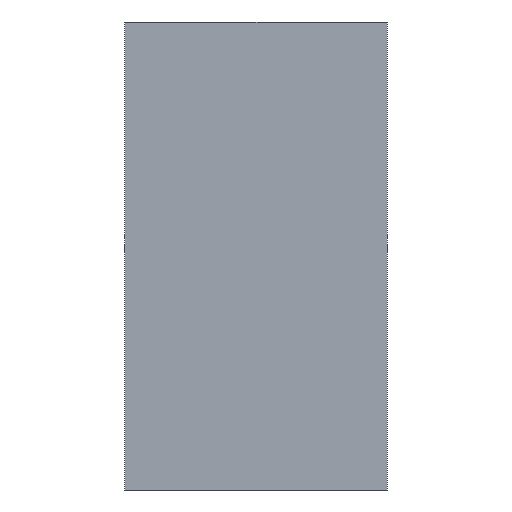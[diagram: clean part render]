
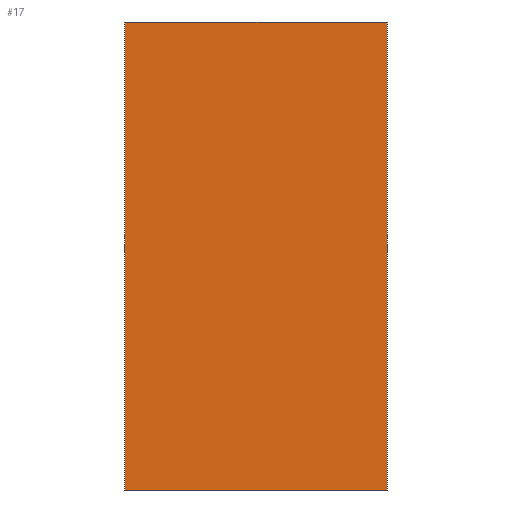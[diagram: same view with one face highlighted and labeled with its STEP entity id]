
A CAD part, left-side view. The second image highlights one B-rep face of the part: STEP entity #17.
In plain terms, the highlighted planar face has unit normal (-1, 0, 0).
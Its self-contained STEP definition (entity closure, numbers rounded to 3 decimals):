
#17 = ADVANCED_FACE('',(#18),#32,.F.);
#18 = FACE_BOUND('',#19,.F.);
#19 = EDGE_LOOP('',(#20,#55,#83,#111));
#20 = ORIENTED_EDGE('',*,*,#21,.F.);
#21 = EDGE_CURVE('',#22,#24,#26,.T.);
#22 = VERTEX_POINT('',#23);
#23 = CARTESIAN_POINT('',(10.5,-45.775,1.3));
#24 = VERTEX_POINT('',#25);
#25 = CARTESIAN_POINT('',(10.5,-45.775,6.3));
#26 = SURFACE_CURVE('',#27,(#31,#43),.PCURVE_S1.);
#27 = LINE('',#28,#29);
#28 = CARTESIAN_POINT('',(10.5,-45.775,1.3));
#29 = VECTOR('',#30,1.);
#30 = DIRECTION('',(0.,0.,1.));
#31 = PCURVE('',#32,#37);
#32 = PLANE('',#33);
#33 = AXIS2_PLACEMENT_3D('',#34,#35,#36);
#34 = CARTESIAN_POINT('',(10.5,-45.775,1.3));
#35 = DIRECTION('',(1.,0.,0.));
#36 = DIRECTION('',(0.,0.,1.));
#37 = DEFINITIONAL_REPRESENTATION('',(#38),#42);
#38 = LINE('',#39,#40);
#39 = CARTESIAN_POINT('',(0.,0.));
#40 = VECTOR('',#41,1.);
#41 = DIRECTION('',(1.,0.));
#42 = ( GEOMETRIC_REPRESENTATION_CONTEXT(2) 
PARAMETRIC_REPRESENTATION_CONTEXT() REPRESENTATION_CONTEXT('2D SPACE',''
  ) );
#43 = PCURVE('',#44,#49);
#44 = PLANE('',#45);
#45 = AXIS2_PLACEMENT_3D('',#46,#47,#48);
#46 = CARTESIAN_POINT('',(10.5,-45.775,1.3));
#47 = DIRECTION('',(0.,1.,0.));
#48 = DIRECTION('',(0.,0.,1.));
#49 = DEFINITIONAL_REPRESENTATION('',(#50),#54);
#50 = LINE('',#51,#52);
#51 = CARTESIAN_POINT('',(0.,0.));
#52 = VECTOR('',#53,1.);
#53 = DIRECTION('',(1.,0.));
#54 = ( GEOMETRIC_REPRESENTATION_CONTEXT(2) 
PARAMETRIC_REPRESENTATION_CONTEXT() REPRESENTATION_CONTEXT('2D SPACE',''
  ) );
#55 = ORIENTED_EDGE('',*,*,#56,.T.);
#56 = EDGE_CURVE('',#22,#57,#59,.T.);
#57 = VERTEX_POINT('',#58);
#58 = CARTESIAN_POINT('',(10.5,-42.975,1.3));
#59 = SURFACE_CURVE('',#60,(#64,#71),.PCURVE_S1.);
#60 = LINE('',#61,#62);
#61 = CARTESIAN_POINT('',(10.5,-45.775,1.3));
#62 = VECTOR('',#63,1.);
#63 = DIRECTION('',(0.,1.,0.));
#64 = PCURVE('',#32,#65);
#65 = DEFINITIONAL_REPRESENTATION('',(#66),#70);
#66 = LINE('',#67,#68);
#67 = CARTESIAN_POINT('',(0.,0.));
#68 = VECTOR('',#69,1.);
#69 = DIRECTION('',(0.,-1.));
#70 = ( GEOMETRIC_REPRESENTATION_CONTEXT(2) 
PARAMETRIC_REPRESENTATION_CONTEXT() REPRESENTATION_CONTEXT('2D SPACE',''
  ) );
#71 = PCURVE('',#72,#77);
#72 = PLANE('',#73);
#73 = AXIS2_PLACEMENT_3D('',#74,#75,#76);
#74 = CARTESIAN_POINT('',(10.5,-45.775,1.3));
#75 = DIRECTION('',(0.,0.,1.));
#76 = DIRECTION('',(1.,0.,0.));
#77 = DEFINITIONAL_REPRESENTATION('',(#78),#82);
#78 = LINE('',#79,#80);
#79 = CARTESIAN_POINT('',(0.,0.));
#80 = VECTOR('',#81,1.);
#81 = DIRECTION('',(0.,1.));
#82 = ( GEOMETRIC_REPRESENTATION_CONTEXT(2) 
PARAMETRIC_REPRESENTATION_CONTEXT() REPRESENTATION_CONTEXT('2D SPACE',''
  ) );
#83 = ORIENTED_EDGE('',*,*,#84,.T.);
#84 = EDGE_CURVE('',#57,#85,#87,.T.);
#85 = VERTEX_POINT('',#86);
#86 = CARTESIAN_POINT('',(10.5,-42.975,6.3));
#87 = SURFACE_CURVE('',#88,(#92,#99),.PCURVE_S1.);
#88 = LINE('',#89,#90);
#89 = CARTESIAN_POINT('',(10.5,-42.975,1.3));
#90 = VECTOR('',#91,1.);
#91 = DIRECTION('',(0.,0.,1.));
#92 = PCURVE('',#32,#93);
#93 = DEFINITIONAL_REPRESENTATION('',(#94),#98);
#94 = LINE('',#95,#96);
#95 = CARTESIAN_POINT('',(0.,-2.8));
#96 = VECTOR('',#97,1.);
#97 = DIRECTION('',(1.,0.));
#98 = ( GEOMETRIC_REPRESENTATION_CONTEXT(2) 
PARAMETRIC_REPRESENTATION_CONTEXT() REPRESENTATION_CONTEXT('2D SPACE',''
  ) );
#99 = PCURVE('',#100,#105);
#100 = PLANE('',#101);
#101 = AXIS2_PLACEMENT_3D('',#102,#103,#104);
#102 = CARTESIAN_POINT('',(10.5,-42.975,1.3));
#103 = DIRECTION('',(0.,1.,0.));
#104 = DIRECTION('',(0.,0.,1.));
#105 = DEFINITIONAL_REPRESENTATION('',(#106),#110);
#106 = LINE('',#107,#108);
#107 = CARTESIAN_POINT('',(0.,0.));
#108 = VECTOR('',#109,1.);
#109 = DIRECTION('',(1.,0.));
#110 = ( GEOMETRIC_REPRESENTATION_CONTEXT(2) 
PARAMETRIC_REPRESENTATION_CONTEXT() REPRESENTATION_CONTEXT('2D SPACE',''
  ) );
#111 = ORIENTED_EDGE('',*,*,#112,.F.);
#112 = EDGE_CURVE('',#24,#85,#113,.T.);
#113 = SURFACE_CURVE('',#114,(#118,#125),.PCURVE_S1.);
#114 = LINE('',#115,#116);
#115 = CARTESIAN_POINT('',(10.5,-45.775,6.3));
#116 = VECTOR('',#117,1.);
#117 = DIRECTION('',(0.,1.,0.));
#118 = PCURVE('',#32,#119);
#119 = DEFINITIONAL_REPRESENTATION('',(#120),#124);
#120 = LINE('',#121,#122);
#121 = CARTESIAN_POINT('',(5.,0.));
#122 = VECTOR('',#123,1.);
#123 = DIRECTION('',(0.,-1.));
#124 = ( GEOMETRIC_REPRESENTATION_CONTEXT(2) 
PARAMETRIC_REPRESENTATION_CONTEXT() REPRESENTATION_CONTEXT('2D SPACE',''
  ) );
#125 = PCURVE('',#126,#131);
#126 = PLANE('',#127);
#127 = AXIS2_PLACEMENT_3D('',#128,#129,#130);
#128 = CARTESIAN_POINT('',(10.5,-45.775,6.3));
#129 = DIRECTION('',(0.,0.,1.));
#130 = DIRECTION('',(1.,0.,0.));
#131 = DEFINITIONAL_REPRESENTATION('',(#132),#136);
#132 = LINE('',#133,#134);
#133 = CARTESIAN_POINT('',(0.,0.));
#134 = VECTOR('',#135,1.);
#135 = DIRECTION('',(0.,1.));
#136 = ( GEOMETRIC_REPRESENTATION_CONTEXT(2) 
PARAMETRIC_REPRESENTATION_CONTEXT() REPRESENTATION_CONTEXT('2D SPACE',''
  ) );
